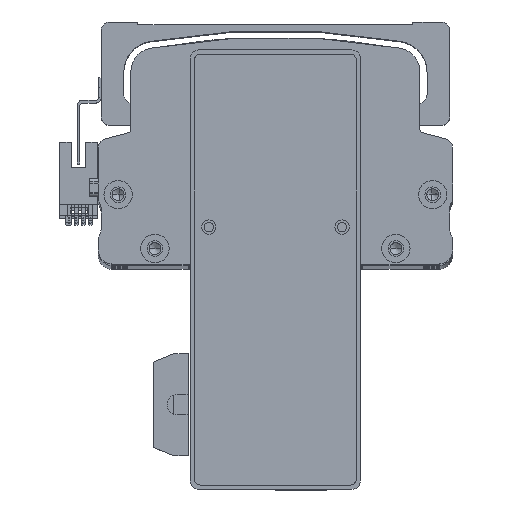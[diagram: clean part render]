
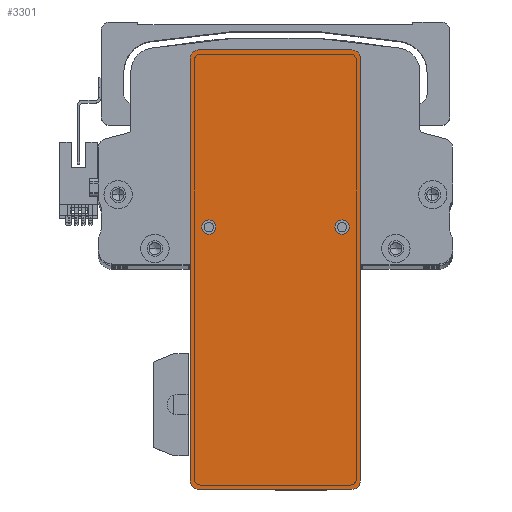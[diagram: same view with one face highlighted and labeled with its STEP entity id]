
A CAD part, top view. The second image highlights one B-rep face of the part: STEP entity #3301.
In plain terms, the highlighted planar face has unit normal (0, 0, 1) as drawn and (0, 0, -1) by its records, which use the part's own axes.
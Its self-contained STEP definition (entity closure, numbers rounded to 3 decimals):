
#42 = ORIENTED_EDGE ( 'NONE', *, *, #66661, .T. ) ;
#311 = VERTEX_POINT ( 'NONE', #1939 ) ;
#640 = CIRCLE ( 'NONE', #68507, 2.5 ) ;
#1626 = EDGE_CURVE ( 'NONE', #81010, #19110, #640, .T. ) ;
#1939 = CARTESIAN_POINT ( 'NONE',  ( 74.5, 30., 0. ) ) ;
#2422 = EDGE_LOOP ( 'NONE', ( #35563, #27581 ) ) ;
#3241 = DIRECTION ( 'NONE',  ( -1., 0., 0. ) ) ;
#3301 = ADVANCED_FACE ( 'NONE', ( #13019, #25829, #9082 ), #3764, .F. ) ;
#3453 = DIRECTION ( 'NONE',  ( 1., 0., 0. ) ) ;
#3764 = PLANE ( 'NONE',  #39233 ) ;
#5000 = DIRECTION ( 'NONE',  ( 1., 0., 0. ) ) ;
#5234 = CARTESIAN_POINT ( 'NONE',  ( 12.5, -23.5, 0. ) ) ;
#5495 = VERTEX_POINT ( 'NONE', #21973 ) ;
#5530 = VECTOR ( 'NONE', #5000, 1000. ) ;
#8226 = ORIENTED_EDGE ( 'NONE', *, *, #11880, .F. ) ;
#8855 = DIRECTION ( 'NONE',  ( 0., 0., -1. ) ) ;
#9082 = FACE_OUTER_BOUND ( 'NONE', #33769, .T. ) ;
#9686 = CARTESIAN_POINT ( 'NONE',  ( 77.5, -30., 0. ) ) ;
#9941 = CIRCLE ( 'NONE', #35258, 3. ) ;
#10647 = DIRECTION ( 'NONE',  ( 0., 0., -1. ) ) ;
#11880 = EDGE_CURVE ( 'NONE', #73284, #63101, #16811, .T. ) ;
#12951 = EDGE_CURVE ( 'NONE', #40521, #45933, #24311, .T. ) ;
#13019 = FACE_BOUND ( 'NONE', #40499, .T. ) ;
#14731 = CARTESIAN_POINT ( 'NONE',  ( 15., 23.5, 0. ) ) ;
#15662 = VECTOR ( 'NONE', #74247, 1000. ) ;
#16002 = DIRECTION ( 'NONE',  ( 0., 1., 0. ) ) ;
#16811 = CIRCLE ( 'NONE', #55679, 2.5 ) ;
#19110 = VERTEX_POINT ( 'NONE', #5234 ) ;
#19380 = EDGE_CURVE ( 'NONE', #74832, #45933, #24050, .T. ) ;
#20040 = DIRECTION ( 'NONE',  ( 0., 0., -1. ) ) ;
#21033 = DIRECTION ( 'NONE',  ( -1., 0., 0. ) ) ;
#21849 = CIRCLE ( 'NONE', #56666, 2.5 ) ;
#21973 = CARTESIAN_POINT ( 'NONE',  ( 77.5, -27., 0. ) ) ;
#22268 = LINE ( 'NONE', #42717, #5530 ) ;
#22611 = CIRCLE ( 'NONE', #25486, 2.5 ) ;
#22969 = ORIENTED_EDGE ( 'NONE', *, *, #12951, .F. ) ;
#23927 = EDGE_CURVE ( 'NONE', #19110, #81010, #22611, .T. ) ;
#24050 = CIRCLE ( 'NONE', #76846, 3. ) ;
#24311 = LINE ( 'NONE', #36207, #72509 ) ;
#25486 = AXIS2_PLACEMENT_3D ( 'NONE', #48407, #10647, #54674 ) ;
#25829 = FACE_BOUND ( 'NONE', #2422, .T. ) ;
#26511 = CARTESIAN_POINT ( 'NONE',  ( 74.5, 27., 0. ) ) ;
#27581 = ORIENTED_EDGE ( 'NONE', *, *, #1626, .F. ) ;
#29021 = CARTESIAN_POINT ( 'NONE',  ( 0., 0., 0. ) ) ;
#30415 = LINE ( 'NONE', #42728, #15662 ) ;
#31875 = CARTESIAN_POINT ( 'NONE',  ( 15., -23.5, 0. ) ) ;
#32834 = DIRECTION ( 'NONE',  ( 1., 0., 0. ) ) ;
#33769 = EDGE_LOOP ( 'NONE', ( #75660, #69597, #71528, #53829, #22969, #35688, #35614, #42 ) ) ;
#35258 = AXIS2_PLACEMENT_3D ( 'NONE', #46603, #8855, #52922 ) ;
#35403 = DIRECTION ( 'NONE',  ( 1., 0., 0. ) ) ;
#35563 = ORIENTED_EDGE ( 'NONE', *, *, #23927, .F. ) ;
#35614 = ORIENTED_EDGE ( 'NONE', *, *, #44704, .F. ) ;
#35688 = ORIENTED_EDGE ( 'NONE', *, *, #47537, .T. ) ;
#36207 = CARTESIAN_POINT ( 'NONE',  ( -77.5, -30., 0. ) ) ;
#36320 = CARTESIAN_POINT ( 'NONE',  ( -74.5, -30., 0. ) ) ;
#36370 = CARTESIAN_POINT ( 'NONE',  ( 77.5, 27., 0. ) ) ;
#38240 = DIRECTION ( 'NONE',  ( -1., 0., 0. ) ) ;
#38999 = VECTOR ( 'NONE', #16002, 1000. ) ;
#39233 = AXIS2_PLACEMENT_3D ( 'NONE', #29021, #73011, #35403 ) ;
#40269 = EDGE_CURVE ( 'NONE', #74832, #58019, #22268, .T. ) ;
#40499 = EDGE_LOOP ( 'NONE', ( #8226, #52406 ) ) ;
#40521 = VERTEX_POINT ( 'NONE', #76985 ) ;
#40969 = DIRECTION ( 'NONE',  ( 0., 0., -1. ) ) ;
#40980 = LINE ( 'NONE', #9686, #38999 ) ;
#41179 = DIRECTION ( 'NONE',  ( 0., 0., -1. ) ) ;
#41957 = AXIS2_PLACEMENT_3D ( 'NONE', #26511, #70488, #32834 ) ;
#42560 = DIRECTION ( 'NONE',  ( 0., -1., 0. ) ) ;
#42717 = CARTESIAN_POINT ( 'NONE',  ( 77.5, -30., 0. ) ) ;
#42728 = CARTESIAN_POINT ( 'NONE',  ( 77.5, 30., 0. ) ) ;
#43582 = VERTEX_POINT ( 'NONE', #65056 ) ;
#44668 = VERTEX_POINT ( 'NONE', #36370 ) ;
#44704 = EDGE_CURVE ( 'NONE', #311, #43582, #30415, .T. ) ;
#45933 = VERTEX_POINT ( 'NONE', #52428 ) ;
#46603 = CARTESIAN_POINT ( 'NONE',  ( 74.5, -27., 0. ) ) ;
#47537 = EDGE_CURVE ( 'NONE', #40521, #43582, #58204, .T. ) ;
#48115 = EDGE_CURVE ( 'NONE', #5495, #58019, #9941, .T. ) ;
#48407 = CARTESIAN_POINT ( 'NONE',  ( 15., -23.5, 0. ) ) ;
#49833 = CARTESIAN_POINT ( 'NONE',  ( 17.5, -23.5, 0. ) ) ;
#52406 = ORIENTED_EDGE ( 'NONE', *, *, #72355, .F. ) ;
#52428 = CARTESIAN_POINT ( 'NONE',  ( -77.5, -27., 0. ) ) ;
#52922 = DIRECTION ( 'NONE',  ( 1., 0., 0. ) ) ;
#53829 = ORIENTED_EDGE ( 'NONE', *, *, #19380, .T. ) ;
#54674 = DIRECTION ( 'NONE',  ( -1., 0., 0. ) ) ;
#55679 = AXIS2_PLACEMENT_3D ( 'NONE', #78578, #40969, #3241 ) ;
#56666 = AXIS2_PLACEMENT_3D ( 'NONE', #14731, #58784, #21033 ) ;
#57796 = CARTESIAN_POINT ( 'NONE',  ( -74.5, -27., 0. ) ) ;
#58019 = VERTEX_POINT ( 'NONE', #59693 ) ;
#58204 = CIRCLE ( 'NONE', #73606, 3. ) ;
#58784 = DIRECTION ( 'NONE',  ( 0., 0., -1. ) ) ;
#59693 = CARTESIAN_POINT ( 'NONE',  ( 74.5, -30., 0. ) ) ;
#63101 = VERTEX_POINT ( 'NONE', #72571 ) ;
#64071 = DIRECTION ( 'NONE',  ( 1., 0., 0. ) ) ;
#64622 = CIRCLE ( 'NONE', #41957, 3. ) ;
#65056 = CARTESIAN_POINT ( 'NONE',  ( -74.5, 30., 0. ) ) ;
#66661 = EDGE_CURVE ( 'NONE', #311, #44668, #64622, .T. ) ;
#68507 = AXIS2_PLACEMENT_3D ( 'NONE', #31875, #75835, #38240 ) ;
#69264 = CARTESIAN_POINT ( 'NONE',  ( 12.5, 23.5, 0. ) ) ;
#69597 = ORIENTED_EDGE ( 'NONE', *, *, #48115, .T. ) ;
#70488 = DIRECTION ( 'NONE',  ( 0., 0., -1. ) ) ;
#71528 = ORIENTED_EDGE ( 'NONE', *, *, #40269, .F. ) ;
#72355 = EDGE_CURVE ( 'NONE', #63101, #73284, #21849, .T. ) ;
#72509 = VECTOR ( 'NONE', #42560, 1000. ) ;
#72571 = CARTESIAN_POINT ( 'NONE',  ( 17.5, 23.5, 0. ) ) ;
#73011 = DIRECTION ( 'NONE',  ( 0., 0., 1. ) ) ;
#73284 = VERTEX_POINT ( 'NONE', #69264 ) ;
#73606 = AXIS2_PLACEMENT_3D ( 'NONE', #78776, #41179, #3453 ) ;
#74247 = DIRECTION ( 'NONE',  ( -1., 0., 0. ) ) ;
#74832 = VERTEX_POINT ( 'NONE', #36320 ) ;
#75660 = ORIENTED_EDGE ( 'NONE', *, *, #76800, .F. ) ;
#75835 = DIRECTION ( 'NONE',  ( 0., 0., -1. ) ) ;
#76800 = EDGE_CURVE ( 'NONE', #5495, #44668, #40980, .T. ) ;
#76846 = AXIS2_PLACEMENT_3D ( 'NONE', #57796, #20040, #64071 ) ;
#76985 = CARTESIAN_POINT ( 'NONE',  ( -77.5, 27., 0. ) ) ;
#78578 = CARTESIAN_POINT ( 'NONE',  ( 15., 23.5, 0. ) ) ;
#78776 = CARTESIAN_POINT ( 'NONE',  ( -74.5, 27., 0. ) ) ;
#81010 = VERTEX_POINT ( 'NONE', #49833 ) ;
